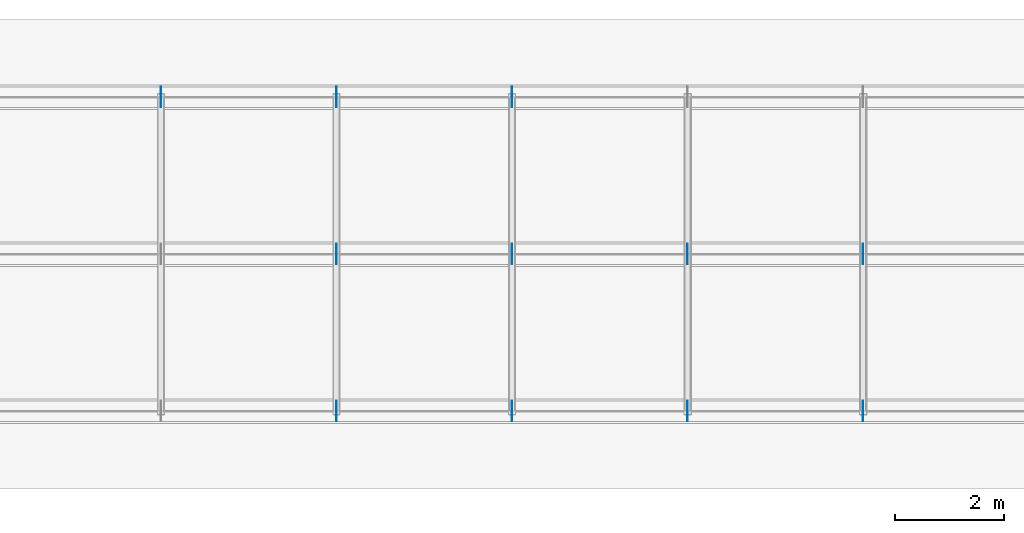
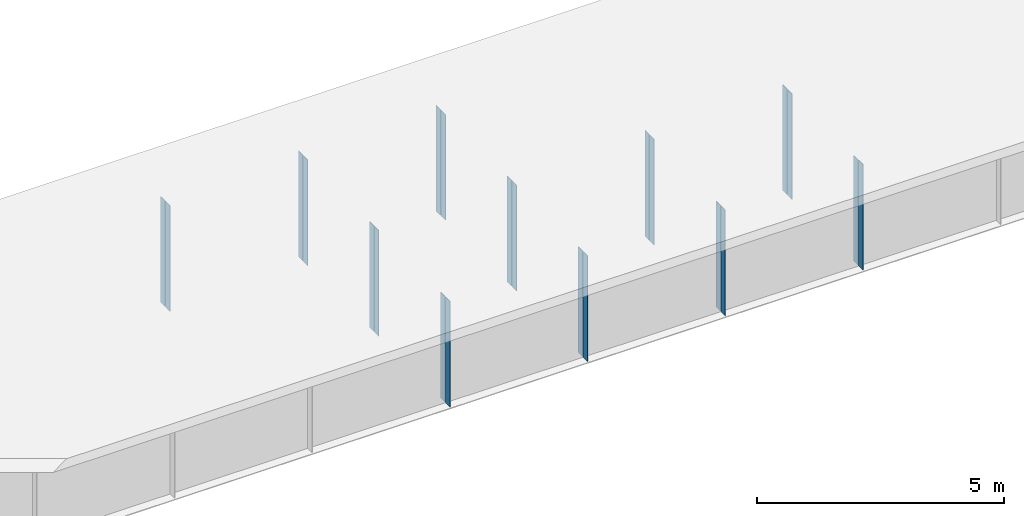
# One storey, part 11 of 12: 22 plates.
"""IFC4 building model written with IfcOpenShell, lengths in metres."""

import ifcopenshell
import ifcopenshell.guid

model = None  # the IFC model being written
_history = None  # IfcOwnerHistory: only IFC2X3 demands one
_inside = {}  # id of a spatial element -> (the spatial element, [elements in it])
_under = {}  # id of a project, library or spatial element -> (it, [spatial elements below it])
_declared = {}  # id of a project -> (the project, [libraries it declares])
_typed = {}  # id of a type object -> (the type object, [elements of that type])
_made_of = {}  # id of a material, layer set ... -> (it, [elements and type objects made of it])


def new_model(schema):
    """Start an empty IFC model of exactly this schema.

    Asked for "IFC4X3", IfcOpenShell would pick the latest addendum, in which some entities
    have other attributes; the version numbers below select the first issue.
    IFC2X3 requires an IfcOwnerHistory on every rooted entity: one is made here for all.
    """
    global model, _history
    if schema == "IFC4X3":
        model = ifcopenshell.file(schema_version=(4, 3, 0, 0))
    else:
        model = ifcopenshell.file(schema=schema)
    _inside.clear()
    _under.clear()
    _declared.clear()
    _typed.clear()
    _made_of.clear()
    _history = None
    if model.schema == "IFC2X3":
        org = make("IfcOrganization", Name="unknown")
        user = make(
            "IfcPersonAndOrganization",
            ThePerson=make("IfcPerson", FamilyName="unknown"),
            TheOrganization=org,
        )
        app = make(
            "IfcApplication",
            ApplicationDeveloper=org,
            Version="unknown",
            ApplicationFullName="unknown",
            ApplicationIdentifier="unknown",
        )
        _history = make(
            "IfcOwnerHistory",
            OwningUser=user,
            OwningApplication=app,
            ChangeAction="ADDED",
            CreationDate=0,
        )
    return model


def make(cls, **values):
    """One entity of the class cls with the attributes given. An attribute that is None is left unset."""
    return model.create_entity(
        cls, **{name: value for name, value in values.items() if value is not None}
    )


def rooted(cls, **values):
    """An entity with a GlobalId (a new one), such as an element, a storey or a relation."""
    return make(cls, GlobalId=ifcopenshell.guid.new(), OwnerHistory=_history, **values)


def si_unit(unit_type, name, prefix=None):
    """IfcSIUnit, for example si_unit("LENGTHUNIT", "METRE", prefix="MILLI")."""
    return make("IfcSIUnit", UnitType=unit_type, Prefix=prefix, Name=name)


def assignment(units):
    """IfcUnitAssignment: the units of a project."""
    return None if units is None else make("IfcUnitAssignment", Units=units)


def point(xyz):
    """IfcCartesianPoint."""
    return None if xyz is None else make("IfcCartesianPoint", Coordinates=xyz)


def direction(xyz):
    """IfcDirection."""
    return None if xyz is None else make("IfcDirection", DirectionRatios=xyz)


def frame(location, z_axis=None, x_axis=None):
    """IfcAxis2Placement3D, a coordinate frame: its origin and axes. An axis left out is left unset."""
    return make(
        "IfcAxis2Placement3D",
        Location=point(location),
        Axis=direction(z_axis),
        RefDirection=direction(x_axis),
    )


def frame_2d(location, x_axis=None):
    """IfcAxis2Placement2D, a coordinate frame in the plane: its origin and x axis."""
    return make(
        "IfcAxis2Placement2D", Location=point(location), RefDirection=direction(x_axis)
    )


def origin():
    """The frame at (0, 0, 0) with its axes left unset."""
    return frame((0.0, 0.0, 0.0))


def origin_with_axes():
    """The frame at (0, 0, 0) with the z axis (0, 0, 1) and the x axis (1, 0, 0) written out."""
    return frame((0.0, 0.0, 0.0), z_axis=(0.0, 0.0, 1.0), x_axis=(1.0, 0.0, 0.0))


def origin_2d_with_axis():
    """The frame at (0, 0) in the plane with the x axis (1, 0) written out."""
    return frame_2d((0.0, 0.0), x_axis=(1.0, 0.0))


def place(relative_to, where):
    """IfcLocalPlacement: puts the frame where relative to a parent placement (None: the world)."""
    return make(
        "IfcLocalPlacement", PlacementRelTo=relative_to, RelativePlacement=where
    )


def context(
    kind, dimensions, precision=None, world=None, true_north=None, identifier=None
):
    """IfcGeometricRepresentationContext, for example the 3D "Model" context."""
    return make(
        "IfcGeometricRepresentationContext",
        ContextIdentifier=identifier,
        ContextType=kind,
        CoordinateSpaceDimension=dimensions,
        Precision=precision,
        WorldCoordinateSystem=world,
        TrueNorth=true_north,
    )


def subcontext(parent, identifier, kind, view, scale=None):
    """IfcGeometricRepresentationSubContext, for example "Body" below "Model"."""
    return make(
        "IfcGeometricRepresentationSubContext",
        ContextIdentifier=identifier,
        ContextType=kind,
        ParentContext=parent,
        TargetScale=scale,
        TargetView=view,
    )


def project(units=None, contexts=None):
    """IfcProject with its units and contexts."""
    return rooted(
        "IfcProject",
        Name="project",
        RepresentationContexts=contexts,
        UnitsInContext=assignment(units),
    )


def spatial(cls, under=None, at=None, **own):
    """A site, building, storey or space (cls), placed at a placement, below another one or the project."""
    s = rooted(cls, ObjectPlacement=at, **own)
    if under is not None:
        _under.setdefault(under.id(), (under, []))[1].append(s)
    return s


def profile(cls, at=None, kind="AREA", **sizes):
    """A parametric profile (cls). Its sizes go by their IFC names, for example OverallWidth=200.0."""
    return make(cls, ProfileType=kind, Position=at, **sizes)


def rectangle(**sizes):
    """IfcRectangleProfileDef."""
    return profile("IfcRectangleProfileDef", **sizes)


def extrude(swept, where, along, depth):
    """IfcExtrudedAreaSolid: the profile swept, set in the frame where, extruded along a direction by depth."""
    return make(
        "IfcExtrudedAreaSolid",
        SweptArea=swept,
        Position=where,
        ExtrudedDirection=direction(along),
        Depth=depth,
    )


def shape(context_of_items, identifier, shape_type, items):
    """IfcShapeRepresentation: the items that make up one representation, for example the "Body"."""
    return make(
        "IfcShapeRepresentation",
        ContextOfItems=context_of_items,
        RepresentationIdentifier=identifier,
        RepresentationType=shape_type,
        Items=items,
    )


def made_of(thing, what):
    """Note that an element or type object is made of a material, layer set ...; save() writes the relation."""
    if what is not None:
        _made_of.setdefault(what.id(), (what, []))[1].append(thing)
    return thing


def element(
    cls,
    number,
    at=None,
    inside=None,
    cuts=None,
    type_object=None,
    material=None,
    context=None,
    identifier="Body",
    shape_type=None,
    held_by="IfcProductDefinitionShape",
    body=None,
    shapes=None,
    **own,
):
    """One element of the class cls, such as IfcWall. Its Tag is "e" and its number.

    at: its placement. inside: the storey or other place that contains it. cuts: it is an
    opening in that element (IfcRelVoidsElement). A single representation is given by context,
    identifier, shape_type and body (its items); several are given by shapes. held_by: the class
    of the entity that holds the representations. save() writes the other relations.
    """
    e = rooted(cls, Tag="e%d" % number, ObjectPlacement=at, **own)
    if body is not None:
        shapes = [shape(context, identifier, shape_type, body)]
    if shapes is not None:
        e.Representation = make(held_by, Representations=shapes)
    if inside is not None:
        _inside.setdefault(inside.id(), (inside, []))[1].append(e)
    if cuts is not None:
        rooted(
            "IfcRelVoidsElement", RelatingBuildingElement=cuts, RelatedOpeningElement=e
        )
    if type_object is not None:
        _typed.setdefault(type_object.id(), (type_object, []))[1].append(e)
    return made_of(e, material)


def aggregate(whole, parts):
    """IfcRelAggregates: a whole, such as a stair, and the parts it consists of."""
    return rooted("IfcRelAggregates", RelatingObject=whole, RelatedObjects=parts)


def save(model, path):
    """Write the relations noted so far, then the file.

    IfcRelAggregates (storeys below a building ...), IfcRelContainedInSpatialStructure (elements
    in a storey), IfcRelDefinesByType, IfcRelAssociatesMaterial and IfcRelDeclares: one each for
    every whole, place, type object, material and project.
    """
    for whole, parts in _under.values():
        aggregate(whole, parts)
    for where, things in _inside.values():
        rooted(
            "IfcRelContainedInSpatialStructure",
            RelatedElements=things,
            RelatingStructure=where,
        )
    for kind, things in _typed.values():
        rooted("IfcRelDefinesByType", RelatedObjects=things, RelatingType=kind)
    for what, things in _made_of.values():
        rooted("IfcRelAssociatesMaterial", RelatedObjects=things, RelatingMaterial=what)
    for by, libraries in _declared.values():
        rooted("IfcRelDeclares", RelatingContext=by, RelatedDefinitions=libraries)
    model.write(path)


model = new_model("IFC4")

# Units and contexts
model_context = context("Model", 3, precision=1e-05, world=origin())
body_context = subcontext(model_context, "Body", "Model", "MODEL_VIEW")
ifc_project = project(units=[si_unit("LENGTHUNIT", "METRE"), si_unit("AREAUNIT", "SQUARE_METRE"), si_unit("VOLUMEUNIT", "CUBIC_METRE"), si_unit("PLANEANGLEUNIT", "RADIAN")], contexts=[model_context])

# Site, building, storey
site_placement = place(None, origin_with_axes())
site = spatial("IfcSite", under=ifc_project, at=site_placement, Name="Default Site")
building_placement = place(site_placement, origin_with_axes())
building = spatial("IfcBuilding", under=site, at=building_placement, Name="Bridge Structure")
storey_placement = place(building_placement, origin_with_axes())
storey = spatial("IfcBuildingStorey", under=building, at=storey_placement, Name="Superstructure")

# Plates
for number, where, z_axis, x_axis, name in (
    (1, (25.712, -2.77575, -1.305), (0.0, 0.0, 1.0), (1.0, 0.0, 0.0), "Intermediate Stiffener 1"),
    (2, (25.712, -2.97425, -1.305), (0.0, 0.0, 1.0), (1.0, 0.0, 0.0), "Intermediate Stiffener 1"),
    (3, (28.926000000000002, -2.77575, -1.305), (0.0, 0.0, 1.0), (1.0, 0.0, 0.0), "Intermediate Stiffener 1"),
    (4, (28.926000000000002, -2.97425, -1.305), (0.0, 0.0, 1.0), (1.0, 0.0, 0.0), "Intermediate Stiffener 1"),
    (5, (32.14, -2.77575, -1.305), (0.0, 0.0, 1.0), (1.0, 0.0, 0.0), "Intermediate Stiffener 1"),
    (6, (32.14, -2.97425, -1.305), (0.0, 0.0, 1.0), (1.0, 0.0, 0.0), "Intermediate Stiffener 1"),
    (7, (35.354, -2.77575, -1.305), (0.0, 0.0, 1.0), (1.0, 0.0, 0.0), "Intermediate Stiffener 1"),
    (8, (35.354, -2.97425, -1.305), (0.0, 0.0, 1.0), (1.0, 0.0, 0.0), "Intermediate Stiffener 1"),
    (9, (25.712, 0.09925, -1.305), (0.0, 0.0, 1.0), (1.0, 0.0, 0.0), "Intermediate Stiffener 2"),
    (10, (25.712, -0.09925, -1.305), (0.0, 0.0, 1.0), (1.0, 0.0, 0.0), "Intermediate Stiffener 2"),
    (11, (28.926000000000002, 0.09925, -1.305), (0.0, 0.0, 1.0), (1.0, 0.0, 0.0), "Intermediate Stiffener 2"),
    (12, (28.926000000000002, -0.09925, -1.305), (0.0, 0.0, 1.0), (1.0, 0.0, 0.0), "Intermediate Stiffener 2"),
    (13, (32.14, 0.09925, -1.305), (0.0, 0.0, 1.0), (1.0, 0.0, 0.0), "Intermediate Stiffener 2"),
    (14, (32.14, -0.09925, -1.305), (0.0, 0.0, 1.0), (1.0, 0.0, 0.0), "Intermediate Stiffener 2"),
    (15, (35.354, 0.09925, -1.305), (0.0, 0.0, 1.0), (1.0, 0.0, 0.0), "Intermediate Stiffener 2"),
    (16, (35.354, -0.09925, -1.305), (0.0, 0.0, 1.0), (1.0, 0.0, 0.0), "Intermediate Stiffener 2"),
    (17, (22.498, 2.97425, -1.305), (0.0, 0.0, 1.0), (1.0, 0.0, 0.0), "Intermediate Stiffener 3"),
    (18, (22.498, 2.77575, -1.305), (0.0, 0.0, 1.0), (1.0, 0.0, 0.0), "Intermediate Stiffener 3"),
    (19, (25.712, 2.97425, -1.305), (0.0, 0.0, 1.0), (1.0, 0.0, 0.0), "Intermediate Stiffener 3"),
    (20, (25.712, 2.77575, -1.305), (0.0, 0.0, 1.0), (1.0, 0.0, 0.0), "Intermediate Stiffener 3"),
    (21, (28.926000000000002, 2.97425, -1.305), (0.0, 0.0, 1.0), (1.0, 0.0, 0.0), "Intermediate Stiffener 3"),
    (22, (28.926000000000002, 2.77575, -1.305), (0.0, 0.0, 1.0), (1.0, 0.0, 0.0), "Intermediate Stiffener 3"),
):
    element("IfcPlate", number, at=place(storey_placement, frame(where, z_axis=z_axis, x_axis=x_axis)), inside=storey, Name=name, context=body_context, shape_type="SweptSolid", body=[
        extrude(rectangle(XDim=0.012, YDim=0.1765, at=origin_2d_with_axis()), origin_with_axes(), (0.0, 0.0, 1.0), 2.61),
    ])

save(model, "model.ifc")
